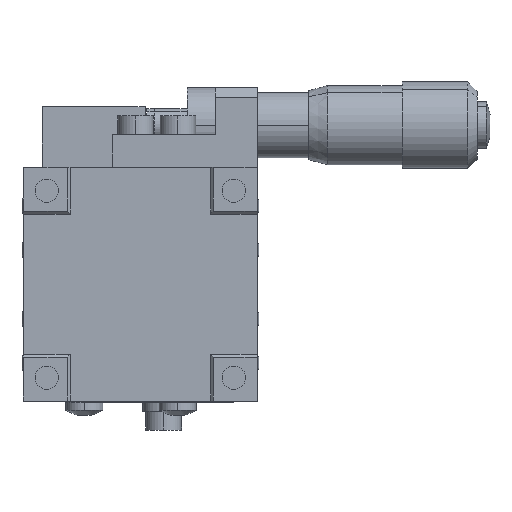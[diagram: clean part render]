
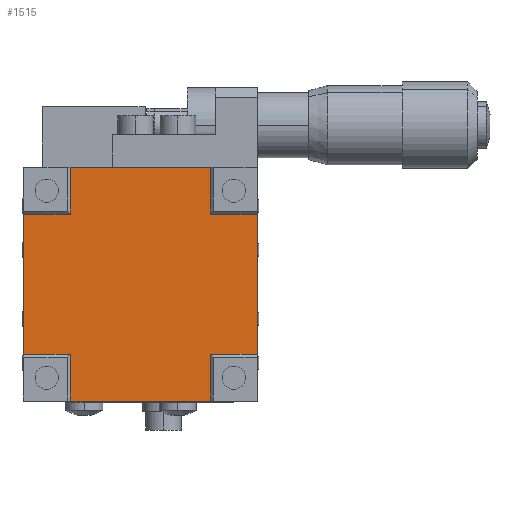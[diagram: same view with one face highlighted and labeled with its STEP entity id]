
A CAD part, front view. The second image highlights one B-rep face of the part: STEP entity #1515.
In plain terms, the highlighted planar face has unit normal (0, -1, 0).
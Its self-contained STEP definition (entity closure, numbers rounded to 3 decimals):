
#1419 = VERTEX_POINT ( 'NONE', #3404 ) ;
#1429 = EDGE_CURVE ( 'NONE', #1430, #1419, #3398, .T. ) ;
#1430 = VERTEX_POINT ( 'NONE', #3394 ) ;
#1476 = VERTEX_POINT ( 'NONE', #3477 ) ;
#1478 = EDGE_CURVE ( 'NONE', #1491, #1481, #3476, .T. ) ;
#1479 = EDGE_CURVE ( 'NONE', #1598, #1491, #3472, .T. ) ;
#1481 = VERTEX_POINT ( 'NONE', #3468 ) ;
#1488 = EDGE_CURVE ( 'NONE', #1481, #1596, #3463, .T. ) ;
#1491 = VERTEX_POINT ( 'NONE', #3448 ) ;
#1503 = VERTEX_POINT ( 'NONE', #3424 ) ;
#1515 = ADVANCED_FACE ( 'NONE', ( #3577 ), #3497, .T. ) ;
#1516 = EDGE_LOOP ( 'NONE', ( #1517, #1518, #1654, #1758, #1725, #1794, #1670, #1634, #1523, #1524, #1525, #1526 ) ) ;
#1517 = ORIENTED_EDGE ( 'NONE', *, *, #1784, .T. ) ;
#1518 = ORIENTED_EDGE ( 'NONE', *, *, #1531, .T. ) ;
#1520 = EDGE_CURVE ( 'NONE', #1554, #1521, #3620, .T. ) ;
#1521 = VERTEX_POINT ( 'NONE', #3653 ) ;
#1523 = ORIENTED_EDGE ( 'NONE', *, *, #1581, .T. ) ;
#1524 = ORIENTED_EDGE ( 'NONE', *, *, #1588, .T. ) ;
#1525 = ORIENTED_EDGE ( 'NONE', *, *, #1560, .T. ) ;
#1526 = ORIENTED_EDGE ( 'NONE', *, *, #1520, .T. ) ;
#1531 = EDGE_CURVE ( 'NONE', #1816, #1430, #3607, .T. ) ;
#1554 = VERTEX_POINT ( 'NONE', #3679 ) ;
#1560 = EDGE_CURVE ( 'NONE', #1601, #1554, #3678, .T. ) ;
#1564 = EDGE_CURVE ( 'NONE', #1596, #1503, #3527, .T. ) ;
#1581 = EDGE_CURVE ( 'NONE', #1503, #1476, #3585, .T. ) ;
#1582 = EDGE_CURVE ( 'NONE', #1419, #1598, #3581, .T. ) ;
#1588 = EDGE_CURVE ( 'NONE', #1476, #1601, #3605, .T. ) ;
#1596 = VERTEX_POINT ( 'NONE', #3564 ) ;
#1598 = VERTEX_POINT ( 'NONE', #3557 ) ;
#1601 = VERTEX_POINT ( 'NONE', #3552 ) ;
#1634 = ORIENTED_EDGE ( 'NONE', *, *, #1564, .T. ) ;
#1654 = ORIENTED_EDGE ( 'NONE', *, *, #1429, .T. ) ;
#1670 = ORIENTED_EDGE ( 'NONE', *, *, #1488, .T. ) ;
#1725 = ORIENTED_EDGE ( 'NONE', *, *, #1479, .T. ) ;
#1758 = ORIENTED_EDGE ( 'NONE', *, *, #1582, .T. ) ;
#1784 = EDGE_CURVE ( 'NONE', #1521, #1816, #4024, .T. ) ;
#1794 = ORIENTED_EDGE ( 'NONE', *, *, #1478, .T. ) ;
#1816 = VERTEX_POINT ( 'NONE', #3969 ) ;
#3394 = CARTESIAN_POINT ( 'NONE',  ( 7.5, 0.3, -12.5 ) ) ;
#3395 = DIRECTION ( 'NONE',  ( 0., 0., 1. ) ) ;
#3396 = VECTOR ( 'NONE', #3395, 1000. ) ;
#3397 = CARTESIAN_POINT ( 'NONE',  ( 7.5, 0.3, 7.5 ) ) ;
#3398 = LINE ( 'NONE', #3397, #3396 ) ;
#3404 = CARTESIAN_POINT ( 'NONE',  ( 7.5, 0.3, -7.5 ) ) ;
#3424 = CARTESIAN_POINT ( 'NONE',  ( -7.5, 0.3, 12.5 ) ) ;
#3448 = CARTESIAN_POINT ( 'NONE',  ( 12.5, 0.3, 7.5 ) ) ;
#3460 = DIRECTION ( 'NONE',  ( 0., 0., 1. ) ) ;
#3461 = VECTOR ( 'NONE', #3460, 1000. ) ;
#3462 = CARTESIAN_POINT ( 'NONE',  ( 7.5, 0.3, 7.5 ) ) ;
#3463 = LINE ( 'NONE', #3462, #3461 ) ;
#3468 = CARTESIAN_POINT ( 'NONE',  ( 7.5, 0.3, 7.5 ) ) ;
#3469 = DIRECTION ( 'NONE',  ( 0., 0., 1. ) ) ;
#3470 = VECTOR ( 'NONE', #3469, 1000. ) ;
#3471 = CARTESIAN_POINT ( 'NONE',  ( 12.5, 0.3, 7.5 ) ) ;
#3472 = LINE ( 'NONE', #3471, #3470 ) ;
#3473 = DIRECTION ( 'NONE',  ( -1., 0., 0. ) ) ;
#3474 = VECTOR ( 'NONE', #3473, 1000. ) ;
#3475 = CARTESIAN_POINT ( 'NONE',  ( -28.353, 0.3, 7.5 ) ) ;
#3476 = LINE ( 'NONE', #3475, #3474 ) ;
#3477 = CARTESIAN_POINT ( 'NONE',  ( -7.5, 0.3, 7.5 ) ) ;
#3497 = PLANE ( 'NONE',  #3629 ) ;
#3499 = DIRECTION ( 'NONE',  ( 1., 0., 0. ) ) ;
#3500 = VECTOR ( 'NONE', #3499, 1000. ) ;
#3525 = VECTOR ( 'NONE', #3639, 1000. ) ;
#3526 = CARTESIAN_POINT ( 'NONE',  ( -28.353, 0.3, 12.5 ) ) ;
#3527 = LINE ( 'NONE', #3526, #3525 ) ;
#3552 = CARTESIAN_POINT ( 'NONE',  ( -12.5, 0.3, 7.5 ) ) ;
#3557 = CARTESIAN_POINT ( 'NONE',  ( 12.5, 0.3, -7.5 ) ) ;
#3564 = CARTESIAN_POINT ( 'NONE',  ( 7.5, 0.3, 12.5 ) ) ;
#3577 = FACE_OUTER_BOUND ( 'NONE', #1516, .T. ) ;
#3579 = VECTOR ( 'NONE', #3686, 1000. ) ;
#3580 = CARTESIAN_POINT ( 'NONE',  ( -28.353, 0.3, -7.5 ) ) ;
#3581 = LINE ( 'NONE', #3580, #3579 ) ;
#3582 = DIRECTION ( 'NONE',  ( 0., 0., -1. ) ) ;
#3583 = VECTOR ( 'NONE', #3582, 1000. ) ;
#3584 = CARTESIAN_POINT ( 'NONE',  ( -7.5, 0.3, 7.5 ) ) ;
#3585 = LINE ( 'NONE', #3584, #3583 ) ;
#3588 = VECTOR ( 'NONE', #3654, 1000. ) ;
#3589 = CARTESIAN_POINT ( 'NONE',  ( -28.353, 0.3, -7.5 ) ) ;
#3602 = DIRECTION ( 'NONE',  ( -1., 0., 0. ) ) ;
#3603 = VECTOR ( 'NONE', #3602, 1000. ) ;
#3604 = CARTESIAN_POINT ( 'NONE',  ( -28.353, 0.3, 7.5 ) ) ;
#3605 = LINE ( 'NONE', #3604, #3603 ) ;
#3606 = CARTESIAN_POINT ( 'NONE',  ( -28.353, 0.3, -12.5 ) ) ;
#3607 = LINE ( 'NONE', #3606, #3500 ) ;
#3620 = LINE ( 'NONE', #3589, #3588 ) ;
#3626 = DIRECTION ( 'NONE',  ( 0., 0., 1. ) ) ;
#3627 = DIRECTION ( 'NONE',  ( 0., -1., 0. ) ) ;
#3628 = CARTESIAN_POINT ( 'NONE',  ( -28.353, 0.3, 7.5 ) ) ;
#3629 = AXIS2_PLACEMENT_3D ( 'NONE', #3628, #3627, #3626 ) ;
#3639 = DIRECTION ( 'NONE',  ( -1., 0., 0. ) ) ;
#3653 = CARTESIAN_POINT ( 'NONE',  ( -7.5, 0.3, -7.5 ) ) ;
#3654 = DIRECTION ( 'NONE',  ( 1., 0., 0. ) ) ;
#3675 = DIRECTION ( 'NONE',  ( 0., 0., -1. ) ) ;
#3676 = VECTOR ( 'NONE', #3675, 1000. ) ;
#3677 = CARTESIAN_POINT ( 'NONE',  ( -12.5, 0.3, 7.5 ) ) ;
#3678 = LINE ( 'NONE', #3677, #3676 ) ;
#3679 = CARTESIAN_POINT ( 'NONE',  ( -12.5, 0.3, -7.5 ) ) ;
#3686 = DIRECTION ( 'NONE',  ( 1., 0., 0. ) ) ;
#3969 = CARTESIAN_POINT ( 'NONE',  ( -7.5, 0.3, -12.5 ) ) ;
#3988 = CARTESIAN_POINT ( 'NONE',  ( -7.5, 0.3, 7.5 ) ) ;
#3991 = VECTOR ( 'NONE', #4007, 1000. ) ;
#4007 = DIRECTION ( 'NONE',  ( 0., 0., -1. ) ) ;
#4024 = LINE ( 'NONE', #3988, #3991 ) ;
